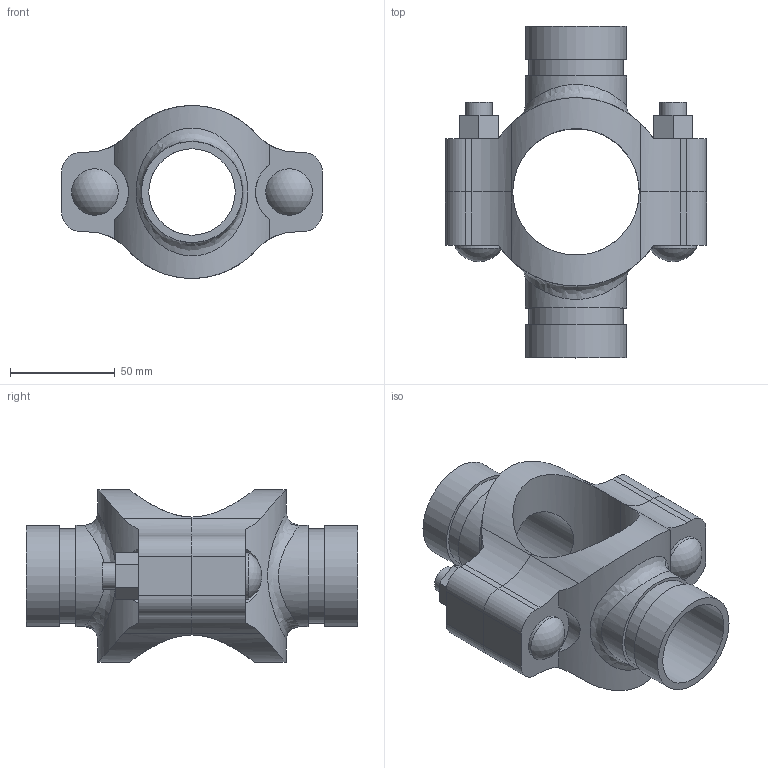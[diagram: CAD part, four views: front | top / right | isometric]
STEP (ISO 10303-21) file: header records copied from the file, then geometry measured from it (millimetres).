
FILE_DESCRIPTION(/* description */ ('VIC MECH-T BRANCH OUTLET CROSS STYLE 920N (GRVD)','CAx-IF Rec.Pracs.---Representation and Presentation of Product Manufacturing Information (PMI)---4.0---2014-10-13'),/* implementation_level */ '2;1');
FILE_NAME(/* name */ 'C:\Users\Vjadhav\AppData\Roaming\Autodesk\ApplicationPlugins\Back Up\Victaulic_IPS_Mechanical-Cross Outlet_Style 920N (OGS)\Victaulic_IPS_Mechanical-Cross Outlet_02.0x01.5x01.5 (50x40x40).stp',/* time_stamp */ '2020-08-06T19:43:06+05:00',/* author */ ('Vjadhav'),/* organization */ ('Victaulic'),/* preprocessor_version */ 'ST-DEVELOPER v17.2',/* originating_system */ 'Autodesk Inventor 2019',/* authorisation */ '');
FILE_SCHEMA (('AP242_MANAGED_MODEL_BASED_3D_ENGINEERING_MIM_LF { 1 0 10303 442 1 1 4 }'));
Length unit declared in the file: inch
Products named in the file (3): 920NG-02.0x01.5x01.5; 920NG-02.0x01.5; 920NG-02.0x01.5_1
Assembly tree (2 placements, depth 2):
  920NG-02.0x01.5x01.5
    920NG-02.0x01.5
    920NG-02.0x01.5_1
Bounding box: 124.71 x 158.5 x 82.55 mm (x, y, z)
Volume: 285753 mm3; surface area: 81881.2 mm2
Topology: 2 solids, 2 shells, 108 faces, 274 edges, 186 vertices
Faces by surface type: plane 54, cylinder 50, sphere 2, bspline 2
Full cylindrical faces by diameter (mm): 12.7 x4, 22.225 x2, 41.275 x2, 45.085 x2, 48.26 x4
Entity records: 4310 total; most frequent: CARTESIAN_POINT 1405, DIRECTION 568, ORIENTED_EDGE 548, EDGE_CURVE 274, AXIS2_PLACEMENT_3D 209, VERTEX_POINT 186, LINE 150, VECTOR 150
